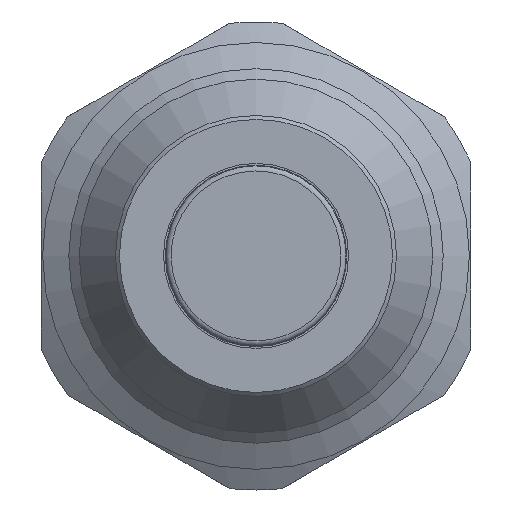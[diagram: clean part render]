
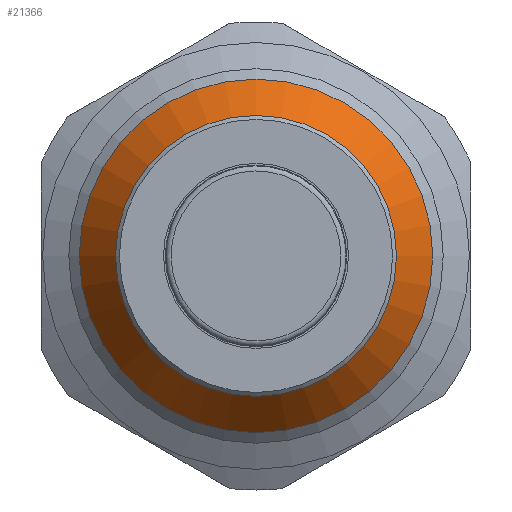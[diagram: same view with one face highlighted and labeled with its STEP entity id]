
A CAD part, front view. The second image highlights one B-rep face of the part: STEP entity #21366.
In plain terms, the highlighted conical face has half-angle 36.001 degrees and reference radius 20.325 mm.
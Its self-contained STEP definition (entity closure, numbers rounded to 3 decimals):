
#2239=CONICAL_SURFACE('',#22193,20.325,0.628);
#3462=LINE('',#47088,#4690);
#4690=VECTOR('',#25011,20.325);
#7008=FACE_OUTER_BOUND('',#8156,.T.);
#8156=EDGE_LOOP('',(#19923,#19924,#19925,#19926));
#8438=CIRCLE('',#21951,18.);
#8551=CIRCLE('',#22194,22.65);
#9753=VERTEX_POINT('',#37015);
#10625=VERTEX_POINT('',#47086);
#12421=EDGE_CURVE('',#9753,#9753,#8438,.T.);
#13730=EDGE_CURVE('',#10625,#10625,#8551,.T.);
#13731=EDGE_CURVE('',#10625,#9753,#3462,.T.);
#19923=ORIENTED_EDGE('',*,*,#13730,.F.);
#19924=ORIENTED_EDGE('',*,*,#13731,.T.);
#19925=ORIENTED_EDGE('',*,*,#12421,.T.);
#19926=ORIENTED_EDGE('',*,*,#13731,.F.);
#21366=ADVANCED_FACE('',(#7008),#2239,.T.);
#21951=AXIS2_PLACEMENT_3D('',#37016,#24028,#24029);
#22193=AXIS2_PLACEMENT_3D('',#47085,#25007,#25008);
#22194=AXIS2_PLACEMENT_3D('',#47087,#25009,#25010);
#24028=DIRECTION('center_axis',(0.,1.,0.));
#24029=DIRECTION('ref_axis',(1.,0.,0.));
#25007=DIRECTION('center_axis',(0.,1.,0.));
#25008=DIRECTION('ref_axis',(-1.,0.,0.));
#25009=DIRECTION('center_axis',(0.,1.,0.));
#25010=DIRECTION('ref_axis',(1.,0.,0.));
#25011=DIRECTION('',(-0.588,-0.809,0.));
#37015=CARTESIAN_POINT('',(18.,-11.25,0.));
#37016=CARTESIAN_POINT('Origin',(0.,-11.25,0.));
#47085=CARTESIAN_POINT('Origin',(0.,-8.05,0.));
#47086=CARTESIAN_POINT('',(22.65,-4.85,0.));
#47087=CARTESIAN_POINT('Origin',(0.,-4.85,0.));
#47088=CARTESIAN_POINT('',(20.325,-8.05,0.));
